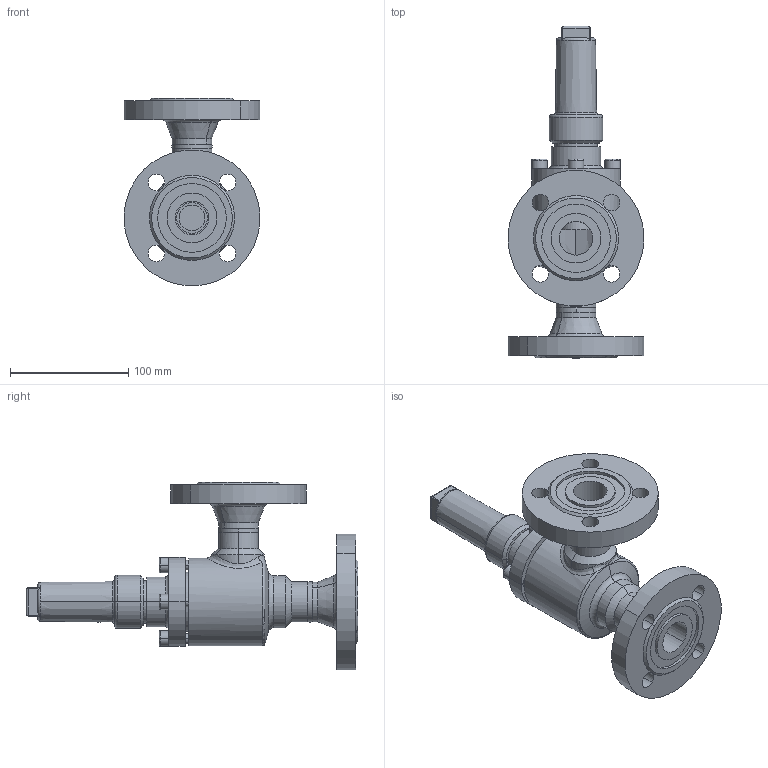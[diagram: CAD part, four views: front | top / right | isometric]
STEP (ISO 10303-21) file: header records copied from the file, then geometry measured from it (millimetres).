
FILE_DESCRIPTION (( 'STEP AP214' ), '1' );
FILE_NAME ('AVB16420D12-DN025_DIN-FL-N_PS40.STEP', '2006-04-27T12:28:50', ( 'Herr Grams' ), ( 'AWP GmbH' ), 'SwSTEP 2.0', 'SolidWorks 2002296', '' );
FILE_SCHEMA (( 'AUTOMOTIVE_DESIGN' ));
Length unit declared in the file: millimetre
Products named in the file (10): AVB16420D12-DN025_DIN-FL-N_PS40; Kappe16402_DN010-32_Standard; AVB16300E13_Deck+Schr-DN25-32_Standard; Deckel16300E13-DN25-32_Standard; Zylinderschraube-DIN912_M 8x 25; Gehäuse-kpl16420-DN025_DIN_PS40_Standard; bead16420-Geh-025-2_Standard; bead16420-Geh-025-1_Standard; Flansch-DIN2635-Nut_PS40_DIN-Flansch-DN025_PS40-Nut; Gehäuse16400-DN025_Standard
Assembly tree (13 placements, depth 3):
  AVB16420D12-DN025_DIN-FL-N_PS40
    Kappe16402_DN010-32_Standard
    AVB16300E13_Deck+Schr-DN25-32_Standard
      Zylinderschraube-DIN912_M 8x 25  x4
      Deckel16300E13-DN25-32_Standard
    Gehäuse-kpl16420-DN025_DIN_PS40_Standard
      bead16420-Geh-025-2_Standard
      bead16420-Geh-025-1_Standard
      Flansch-DIN2635-Nut_PS40_DIN-Flansch-DN025_PS40-Nut  x2
      Gehäuse16400-DN025_Standard
Bounding box: 114.56 x 280.5 x 158.28 mm (x, y, z)
Volume: 699613.9 mm3; surface area: 160402.4 mm2
Topology: 11 solids, 11 shells, 298 faces, 681 edges, 426 vertices
Faces by surface type: cylinder 123, plane 86, cone 51, torus 27, bspline 11
Entity records: 18762 total; most frequent: CARTESIAN_POINT 13163, DIRECTION 1081, ORIENTED_EDGE 970, EDGE_CURVE 485, AXIS2_PLACEMENT_3D 460, VERTEX_POINT 302, EDGE_LOOP 253, CIRCLE 241
